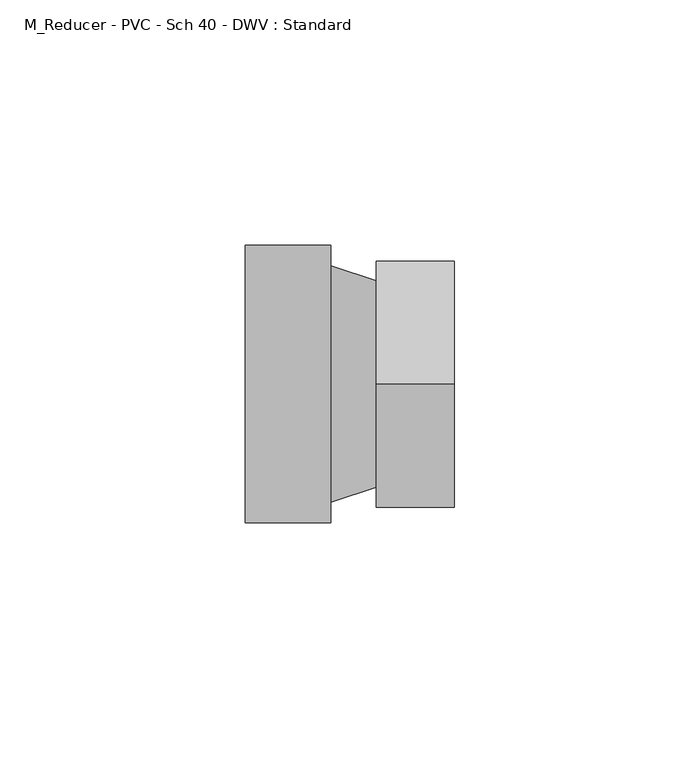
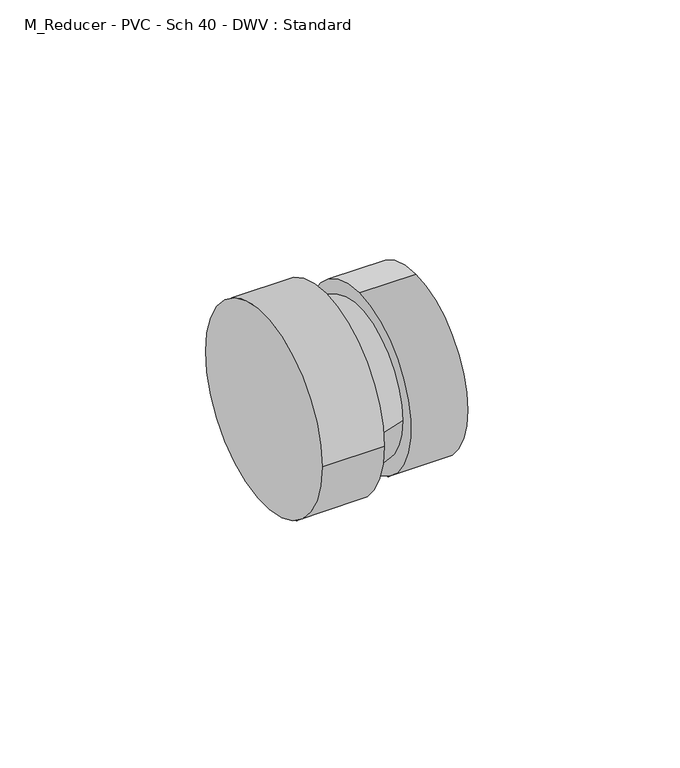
"""IFC4 building model written with IfcOpenShell, lengths in millimetres: pipe fitting geometry, M_Reducer - PVC - Sch 40 - DWV : Standard."""

from ifc_helpers import new_model, si_unit, frame, origin, place, context, project, spatial, polyline, circle_curve, source, transform, mapped, element, save
from ifc_brep_helpers import plane_surface, cylinder_surface, revolved_surface, advanced_brep


def m_reducer_pvc_sch_40_dwv_standard_d6aa1886(model_context):
    return source(origin(), model_context, "Body", "AdvancedBrep", [
        advanced_brep(
        [(0.0, -28.2829, 0.0), (0.0, 28.2829, 0.0), (17.4498, -28.2829, 0.0), (17.4498, 28.2829, 0.0), (17.4498, 24.13, 0.0), (17.4498, -24.13, 0.0), (26.7300938, 21.1000625, 0.0), (26.7300937, -21.1000625, 0.0), (26.7300938, 0.0, 25.1591094), (26.7300938, 0.0, -25.1591094), (42.6300938, 0.0, 25.1591094), (42.6300938, 0.0, -25.1591094)],
        [
            (0, 1, circle_curve(frame((0.0, 0.0, 0.0), z_axis=(-1.0, 0.0, 0.0), x_axis=(0.0, 1.0, 0.0)), 28.2829)),
            (1, 0, circle_curve(frame((0.0, 0.0, 0.0), z_axis=(-1.0, 0.0, 0.0), x_axis=(0.0, 1.0, 0.0)), 28.2829)),
            (2, 3, circle_curve(frame((17.4498, 0.0, 0.0), z_axis=(1.0, 0.0, 0.0), x_axis=(0.0, 1.0, 0.0)), 28.2829)),
            (3, 2, circle_curve(frame((17.4498, 0.0, 0.0), z_axis=(1.0, 0.0, 0.0), x_axis=(0.0, 1.0, 0.0)), 28.2829)),
            (4, 5, circle_curve(frame((17.4498, 0.0, 0.0), z_axis=(-1.0, 0.0, 0.0), x_axis=(0.0, -1.0, 0.0)), 24.13)),
            (5, 4, circle_curve(frame((17.4498, 0.0, 0.0), z_axis=(-1.0, 0.0, 0.0), x_axis=(0.0, 1.0, 0.0)), 24.13)),
            (0, 2),
            (3, 1),
            (4, 6),
            (6, 7, circle_curve(frame((26.7300938, 0.0, 0.0), z_axis=(-1.0, 0.0, 0.0), x_axis=(0.0, -1.0, 0.0)), 21.1000625)),
            (7, 5),
            (7, 6, circle_curve(frame((26.7300938, 0.0, 0.0), z_axis=(-1.0, 0.0, 0.0), x_axis=(0.0, 1.0, 0.0)), 21.1000625)),
            (8, 9, circle_curve(frame((26.7300938, 0.0, 0.0), z_axis=(-1.0, 0.0, 0.0), x_axis=(0.0, 0.0, -1.0)), 25.1591094)),
            (9, 8, circle_curve(frame((26.7300938, 0.0, 0.0), z_axis=(-1.0, 0.0, 0.0), x_axis=(0.0, 0.0, -1.0)), 25.1591094)),
            (10, 11, circle_curve(frame((42.6300938, 0.0, 0.0), z_axis=(1.0, 0.0, 0.0), x_axis=(0.0, 0.0, -1.0)), 25.1591094)),
            (11, 10, circle_curve(frame((42.6300938, 0.0, 0.0), z_axis=(1.0, 0.0, 0.0), x_axis=(0.0, 0.0, -1.0)), 25.1591094)),
            (8, 10),
            (11, 9),
        ],
        [
            plane_surface(frame((0.0, 0.0, 0.0), z_axis=(-1.0, 0.0, 0.0), x_axis=(0.0, 0.0, 1.0))),
            plane_surface(frame((17.4498, 0.0, 0.0), z_axis=(1.0, 0.0, 0.0), x_axis=(0.0, 0.0, 1.0))),
            cylinder_surface(frame((0.0, 0.0, 0.0), z_axis=(-1.0, 0.0, 0.0), x_axis=(0.0, 1.0, 0.0)), 28.2829),
            revolved_surface(polyline([(26.730093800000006, 21.10006248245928, 0.0), (17.449799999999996, 24.13, 0.0)]), (91.3567661, 0.0, 0.0), (-1.0, 0.0, 0.0)),
            plane_surface(frame((26.7300938, 0.0, 0.0), z_axis=(-1.0, 0.0, 0.0), x_axis=(0.0, 1.0, 0.0))),
            plane_surface(frame((42.6300938, 0.0, 0.0), z_axis=(1.0, 0.0, 0.0), x_axis=(0.0, 1.0, 0.0))),
            cylinder_surface(frame((26.7300938, 0.0, 0.0), z_axis=(-1.0, 0.0, 0.0), x_axis=(0.0, 0.0, -1.0)), 25.1591094),
        ],
        [
            (0, [[1, 2]]),
            (1, [[3, 4], [5, 6]]),
            (2, [[-1, 7, -4, 8]]),
            (2, [[-2, -8, -3, -7]]),
            (3, [[9, 10, 11, -5]]),
            (3, [[-9, -6, -11, 12]]),
            (4, [[13, 14], [-10, -12]]),
            (5, [[15, 16]]),
            (6, [[-13, 17, -16, 18]]),
            (6, [[-14, -18, -15, -17]]),
        ],
    ),
    ])


if __name__ == "__main__":
    model = new_model("IFC4")
    model_context = context("Model", 3, world=origin())
    ifc_project = project(units=[si_unit("LENGTHUNIT", "METRE", prefix="MILLI")], contexts=[model_context])
    site = spatial("IfcSite", under=ifc_project)
    building = spatial("IfcBuilding", under=site)
    placement = place(None, origin())
    m_reducer_pvc_sch_40_dwv_standard_shape = m_reducer_pvc_sch_40_dwv_standard_d6aa1886(model_context)
    element("IfcPipeFitting", 1, ObjectType="M_Reducer - PVC - Sch 40 - DWV : Standard", at=placement, inside=building, context=model_context, shape_type="MappedRepresentation", body=[
        mapped(m_reducer_pvc_sch_40_dwv_standard_shape, transform((0.0, 0.0, 0.0), x_axis=(1.0, 0.0, 0.0), y_axis=(0.0, 1.0, 0.0), z_axis=(0.0, 0.0, 1.0))),
    ])
    save(model, "model.ifc")
